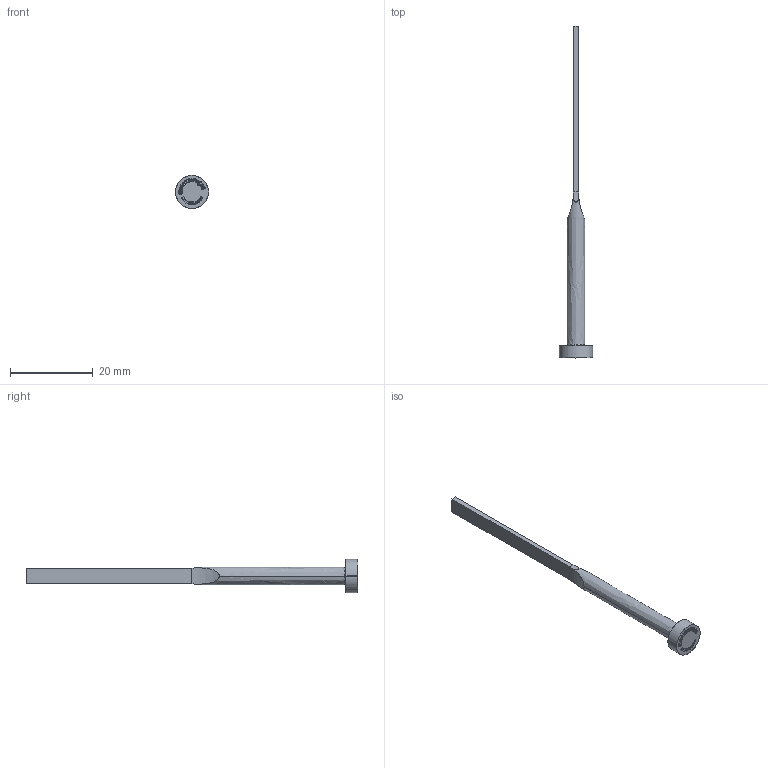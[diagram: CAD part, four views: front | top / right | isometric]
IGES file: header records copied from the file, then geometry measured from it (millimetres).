
Start section: SolidWorks IGES file using analytic representation for surfaces
Global section: file name: D:\Cleonir_particular\Matripeças\Lâmina Extratoras\LE1,203,8080.IGS; native system: SolidWorks 2013; preprocessor: SolidWorks 2013; author: Cleonir; date: 130305.131621; units: millimetre
Bounding box: 8 x 80 x 8 mm (x, y, z)
Surface area: 1065.3 mm2 (no closed solid volume)
Topology: 0 solids, 0 shells, 335 faces, 3351 edges, 3351 vertices
Faces by surface type: bspline 316, revolution 19
